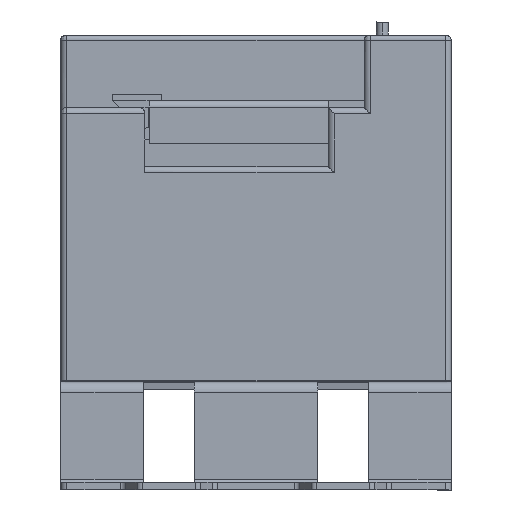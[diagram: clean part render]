
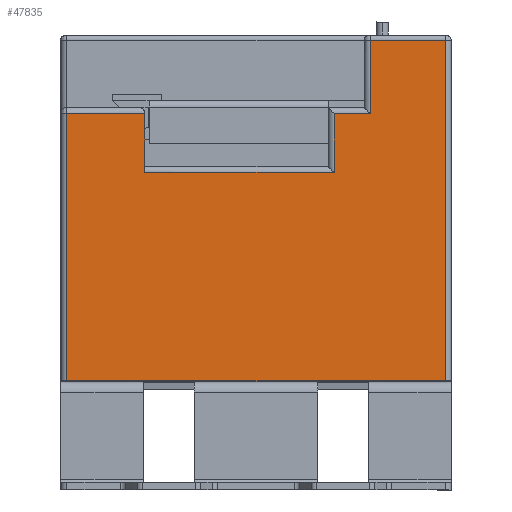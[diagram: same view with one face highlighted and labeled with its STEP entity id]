
A CAD part, front view. The second image highlights one B-rep face of the part: STEP entity #47835.
In plain terms, the highlighted planar face has unit normal (0, -1, 0) as drawn and (-1, 0, 0) by its records, which use the part's own axes.
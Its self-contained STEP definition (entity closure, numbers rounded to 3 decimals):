
#353 = CARTESIAN_POINT ( 'NONE',  ( -194.269, 55.353, 71.607 ) ) ;
#398 = LINE ( 'NONE', #33396, #37957 ) ;
#1650 = VECTOR ( 'NONE', #36493, 1000. ) ;
#2078 = LINE ( 'NONE', #22188, #17765 ) ;
#2262 = DIRECTION ( 'NONE',  ( 0., 1., 0. ) ) ;
#2329 = EDGE_CURVE ( 'NONE', #23659, #40450, #52758, .T. ) ;
#3818 = VERTEX_POINT ( 'NONE', #7902 ) ;
#3983 = CARTESIAN_POINT ( 'NONE',  ( -194.269, 55.353, 97.607 ) ) ;
#3987 = CARTESIAN_POINT ( 'NONE',  ( -194.269, 81.353, 69.607 ) ) ;
#4255 = DIRECTION ( 'NONE',  ( 1., 0., 0. ) ) ;
#6700 = CARTESIAN_POINT ( 'NONE',  ( -194.269, 55.353, 160.607 ) ) ;
#7181 = CARTESIAN_POINT ( 'NONE',  ( -194.269, 55.353, 69.607 ) ) ;
#7902 = CARTESIAN_POINT ( 'NONE',  ( -194.269, -33.647, 197.607 ) ) ;
#8452 = ORIENTED_EDGE ( 'NONE', *, *, #44676, .F. ) ;
#10868 = VECTOR ( 'NONE', #25399, 1000. ) ;
#11352 = CARTESIAN_POINT ( 'NONE',  ( -194.269, 79.853, 172.607 ) ) ;
#11421 = VERTEX_POINT ( 'NONE', #14260 ) ;
#11789 = ORIENTED_EDGE ( 'NONE', *, *, #29967, .F. ) ;
#11818 = VERTEX_POINT ( 'NONE', #31118 ) ;
#11940 = DIRECTION ( 'NONE',  ( 0., -1., 0. ) ) ;
#12150 = ORIENTED_EDGE ( 'NONE', *, *, #39789, .F. ) ;
#12256 = EDGE_CURVE ( 'NONE', #35849, #49159, #2078, .T. ) ;
#14260 = CARTESIAN_POINT ( 'NONE',  ( -194.269, -33.647, 71.607 ) ) ;
#14274 = VERTEX_POINT ( 'NONE', #353 ) ;
#15433 = VECTOR ( 'NONE', #49262, 1000. ) ;
#15818 = LINE ( 'NONE', #52302, #1650 ) ;
#16008 = CARTESIAN_POINT ( 'NONE',  ( -194.269, 81.353, 97.607 ) ) ;
#16057 = DIRECTION ( 'NONE',  ( 0., 0., 1. ) ) ;
#16264 = LINE ( 'NONE', #27810, #15433 ) ;
#17601 = LINE ( 'NONE', #29432, #10868 ) ;
#17765 = VECTOR ( 'NONE', #51155, 1000. ) ;
#20264 = ORIENTED_EDGE ( 'NONE', *, *, #34422, .F. ) ;
#20714 = LINE ( 'NONE', #21241, #28756 ) ;
#21241 = CARTESIAN_POINT ( 'NONE',  ( -194.269, 55.353, 69.607 ) ) ;
#21684 = EDGE_CURVE ( 'NONE', #49159, #3818, #398, .T. ) ;
#22188 = CARTESIAN_POINT ( 'NONE',  ( -194.269, 79.853, 69.607 ) ) ;
#23542 = DIRECTION ( 'NONE',  ( 0., 0., 1. ) ) ;
#23554 = VERTEX_POINT ( 'NONE', #27591 ) ;
#23591 = FACE_OUTER_BOUND ( 'NONE', #30778, .T. ) ;
#23659 = VERTEX_POINT ( 'NONE', #3983 ) ;
#25027 = VECTOR ( 'NONE', #48744, 1000. ) ;
#25399 = DIRECTION ( 'NONE',  ( 0., 1., 0. ) ) ;
#26422 = CARTESIAN_POINT ( 'NONE',  ( -194.269, 79.853, 197.607 ) ) ;
#27244 = ORIENTED_EDGE ( 'NONE', *, *, #32294, .F. ) ;
#27500 = EDGE_CURVE ( 'NONE', #11818, #47811, #38226, .T. ) ;
#27591 = CARTESIAN_POINT ( 'NONE',  ( -194.269, 55.353, 172.607 ) ) ;
#27810 = CARTESIAN_POINT ( 'NONE',  ( -194.269, -33.647, 134.607 ) ) ;
#28756 = VECTOR ( 'NONE', #52920, 1000. ) ;
#29106 = CARTESIAN_POINT ( 'NONE',  ( -194.269, 81.353, 172.607 ) ) ;
#29432 = CARTESIAN_POINT ( 'NONE',  ( -194.269, 81.353, 71.607 ) ) ;
#29967 = EDGE_CURVE ( 'NONE', #11421, #14274, #17601, .T. ) ;
#30778 = EDGE_LOOP ( 'NONE', ( #52977, #35259, #12150, #8452, #52966, #27244, #32231, #20264, #11789, #51473 ) ) ;
#31118 = CARTESIAN_POINT ( 'NONE',  ( -194.269, 35.753, 160.607 ) ) ;
#32231 = ORIENTED_EDGE ( 'NONE', *, *, #2329, .F. ) ;
#32294 = EDGE_CURVE ( 'NONE', #40450, #11818, #15818, .T. ) ;
#33396 = CARTESIAN_POINT ( 'NONE',  ( -194.269, 81.353, 197.607 ) ) ;
#33555 = EDGE_CURVE ( 'NONE', #11421, #3818, #16264, .T. ) ;
#34422 = EDGE_CURVE ( 'NONE', #14274, #23659, #43955, .T. ) ;
#35259 = ORIENTED_EDGE ( 'NONE', *, *, #12256, .F. ) ;
#35849 = VERTEX_POINT ( 'NONE', #11352 ) ;
#36493 = DIRECTION ( 'NONE',  ( 0., 0., 1. ) ) ;
#37470 = AXIS2_PLACEMENT_3D ( 'NONE', #3987, #4255, #16057 ) ;
#37957 = VECTOR ( 'NONE', #11940, 1000. ) ;
#38226 = LINE ( 'NONE', #46261, #38298 ) ;
#38298 = VECTOR ( 'NONE', #2262, 1000. ) ;
#39789 = EDGE_CURVE ( 'NONE', #23554, #35849, #41205, .T. ) ;
#40450 = VERTEX_POINT ( 'NONE', #49107 ) ;
#41029 = PLANE ( 'NONE',  #37470 ) ;
#41205 = LINE ( 'NONE', #29106, #42199 ) ;
#42199 = VECTOR ( 'NONE', #45482, 1000. ) ;
#43955 = LINE ( 'NONE', #7181, #50602 ) ;
#44676 = EDGE_CURVE ( 'NONE', #47811, #23554, #20714, .T. ) ;
#45482 = DIRECTION ( 'NONE',  ( 0., 1., 0. ) ) ;
#46261 = CARTESIAN_POINT ( 'NONE',  ( -194.269, 81.353, 160.607 ) ) ;
#47811 = VERTEX_POINT ( 'NONE', #6700 ) ;
#47835 = ADVANCED_FACE ( 'NONE', ( #23591 ), #41029, .F. ) ;
#48744 = DIRECTION ( 'NONE',  ( 0., -1., 0. ) ) ;
#49107 = CARTESIAN_POINT ( 'NONE',  ( -194.269, 35.753, 97.607 ) ) ;
#49159 = VERTEX_POINT ( 'NONE', #26422 ) ;
#49262 = DIRECTION ( 'NONE',  ( 0., 0., 1. ) ) ;
#50602 = VECTOR ( 'NONE', #23542, 1000. ) ;
#51155 = DIRECTION ( 'NONE',  ( 0., 0., 1. ) ) ;
#51473 = ORIENTED_EDGE ( 'NONE', *, *, #33555, .T. ) ;
#52302 = CARTESIAN_POINT ( 'NONE',  ( -194.269, 35.753, 69.607 ) ) ;
#52758 = LINE ( 'NONE', #16008, #25027 ) ;
#52920 = DIRECTION ( 'NONE',  ( 0., 0., 1. ) ) ;
#52966 = ORIENTED_EDGE ( 'NONE', *, *, #27500, .F. ) ;
#52977 = ORIENTED_EDGE ( 'NONE', *, *, #21684, .F. ) ;
